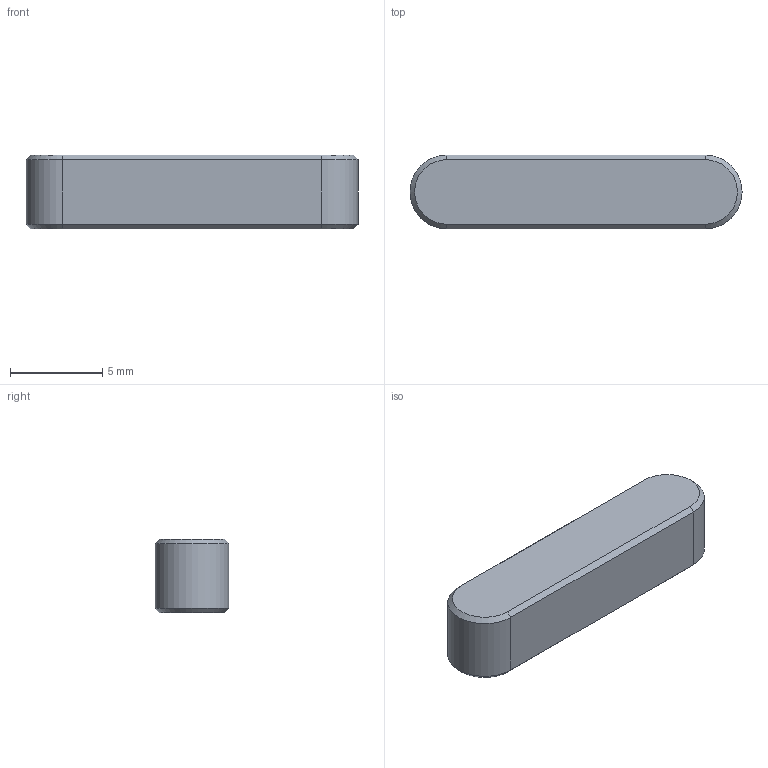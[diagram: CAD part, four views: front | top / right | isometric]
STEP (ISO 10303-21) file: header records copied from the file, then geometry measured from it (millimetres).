
FILE_DESCRIPTION(/* description */ ('키 및 해당 키홈'),/* implementation_level */ '2;1');
FILE_NAME(/* name */ '',/* time_stamp */ '2024-04-08T11:26:48+09:00',/* author */ ('jhkim'),/* organization */ (''),/* preprocessor_version */ 'ST-DEVELOPER v20',/* originating_system */ 'Autodesk Inventor 2025',/* authorisation */ '');
FILE_SCHEMA (('AUTOMOTIVE_DESIGN { 1 0 10303 214 3 1 1 }'));
Length unit declared in the file: millimetre
Products named in the file (1): 평행키 4x4x18
Bounding box: 18 x 4 x 4 mm (x, y, z)
Volume: 271.8 mm3; surface area: 287.4 mm2
Topology: 1 solids, 1 shells, 14 faces, 28 edges, 16 vertices
Faces by surface type: plane 8, cone 4, cylinder 2
Entity records: 399 total; most frequent: DIRECTION 66, CARTESIAN_POINT 59, ORIENTED_EDGE 56, EDGE_CURVE 28, AXIS2_PLACEMENT_3D 23, LINE 20, VECTOR 20, VERTEX_POINT 16
